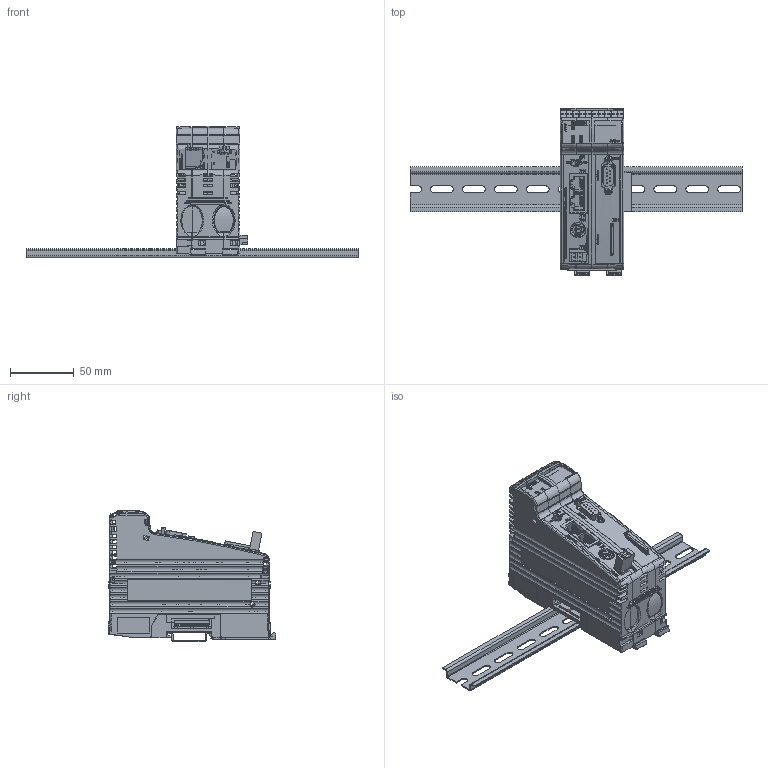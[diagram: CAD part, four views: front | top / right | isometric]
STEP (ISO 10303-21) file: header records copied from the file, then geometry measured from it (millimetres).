
FILE_DESCRIPTION(/* description */ ('FG'),/* implementation_level */ '2;1');
FILE_NAME(/* name */ 'FG_JC-360_001_02',/* time_stamp */ '2016-06-23T16:28:11+02:00',/* author */ ('T. Busch'),/* organization */ ('Jetter AG'),/* preprocessor_version */ 'ST-DEVELOPER v16.7',/* originating_system */ 'DEX',/* authorisation */ $);
FILE_SCHEMA (('AUTOMOTIVE_DESIGN {1 0 10303 214 3 1 1}'));
Products named in the file (28): FG_JC-360_001_02; GE_JC-360_001_02; Sw-LI_JX3_001_01; PCBY_JX3-BN-SW_009_02; BU_08_MINIDIN; BU_RJ45_LED_GRGE_2X; S_R-RO-R_MENTOR; ST_02_E_WI_RM3_5_A; BL_JX3-BN-SW_019_03; Sw-RE_JX3_001_01; FO_JC-360_001_02; BL_JXX_001_1; FO_JX3-Lichtgrau_001_00; BL_JC-340_020; KT_UNC_M3; SD-CARD; PCBY_JC-360_001_02; BU_9_SUB_D_WI_R-LATCH_SMD; BOY_JX3-BP_A1_002_01; PCBY_JX3-BP-BN50_001_00; PCB_JX3-BP-BN50_001_00; ST_10_E_WI_RM2_54; BO_JX3_001_01; DE_JX3_001_00; BO_JX3_002_01; KT_Din_Schiene_Niedrig; Bc_Weidmüller_001; BLZF_3_5_2_SN_SW_1690420000
Assembly tree (38 placements, depth 4):
  FG_JC-360_001_02
    GE_JC-360_001_02
      Sw-LI_JX3_001_01
      PCBY_JX3-BN-SW_009_02
        BU_08_MINIDIN
        BU_RJ45_LED_GRGE_2X
        S_R-RO-R_MENTOR
        ST_02_E_WI_RM3_5_A
      BL_JX3-BN-SW_019_03
      Sw-RE_JX3_001_01
      FO_JC-360_001_02
      BL_JXX_001_1
      FO_JX3-Lichtgrau_001_00
      BL_JC-340_020
      KT_UNC_M3  x2
      SD-CARD
      PCBY_JC-360_001_02
        BU_9_SUB_D_WI_R-LATCH_SMD
    BOY_JX3-BP_A1_002_01
      PCBY_JX3-BP-BN50_001_00
        PCB_JX3-BP-BN50_001_00
        ST_10_E_WI_RM2_54
      BO_JX3_001_01
      DE_JX3_001_00  x2
      BO_JX3_002_01
    KT_Din_Schiene_Niedrig
    Bc_Weidmüller_001  x10
    BLZF_3_5_2_SN_SW_1690420000
Bounding box: 260 x 131.39 x 103.36 mm (x, y, z)
Volume: 135008.5 mm3; surface area: 177194.1 mm2
Topology: 49 solids, 56 shells, 6865 faces, 18772 edges, 12057 vertices
Faces by surface type: plane 5013, cylinder 973, bspline 390, cone 329, sphere 120, torus 40
Full cylindrical faces by diameter (mm): 0.2 x2, 0.5 x18, 0.6 x3, 0.8 x17, 1 x11, 2.156 x2, 2.2 x2, 2.5 x2, 3 x2, 3.2 x2, 10.4 x1, 12.5 x1
Entity records: 229676 total; most frequent: CARTESIAN_POINT 61008, ORIENTED_EDGE 32880, DIRECTION 29228, EDGE_CURVE 16440, LINE 13094, VECTOR 13094, VERTEX_POINT 10838, AXIS2_PLACEMENT_3D 8067
